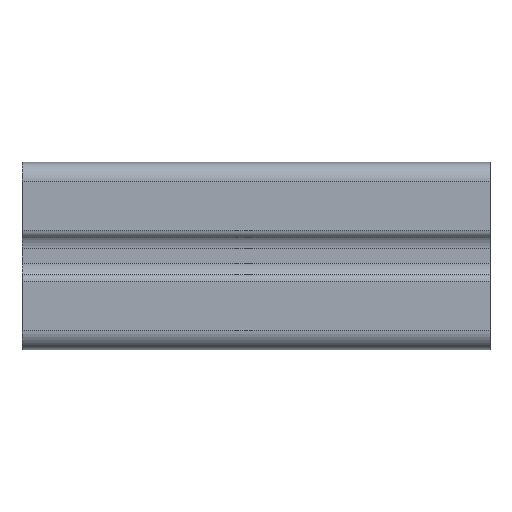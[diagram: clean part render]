
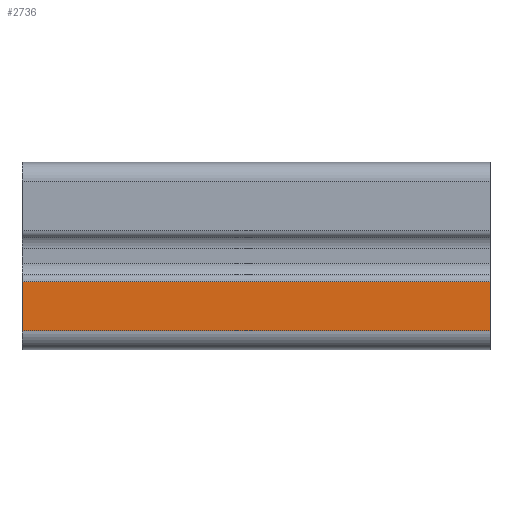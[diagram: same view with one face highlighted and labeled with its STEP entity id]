
A CAD part, left-side view. The second image highlights one B-rep face of the part: STEP entity #2736.
In plain terms, the highlighted planar face has unit normal (-1, 0, 0).
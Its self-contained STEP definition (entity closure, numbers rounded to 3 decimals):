
#52 = CARTESIAN_POINT ( 'NONE',  ( -20., -50., -16. ) ) ;
#205 = CARTESIAN_POINT ( 'NONE',  ( -20., -50., -5.5 ) ) ;
#364 = EDGE_CURVE ( 'NONE', #4177, #5524, #2557, .T. ) ;
#1129 = DIRECTION ( 'NONE',  ( 1., 0., 0. ) ) ;
#1153 = EDGE_LOOP ( 'NONE', ( #6195, #4422, #3032, #3776 ) ) ;
#1164 = PLANE ( 'NONE',  #1638 ) ;
#1329 = EDGE_CURVE ( 'NONE', #5692, #4177, #6366, .T. ) ;
#1638 = AXIS2_PLACEMENT_3D ( 'NONE', #3313, #1129, #3213 ) ;
#1778 = CARTESIAN_POINT ( 'NONE',  ( -20., 50., -5.5 ) ) ;
#2029 = CARTESIAN_POINT ( 'NONE',  ( -20., 50., -5.5 ) ) ;
#2516 = VECTOR ( 'NONE', #2802, 1000. ) ;
#2557 = LINE ( 'NONE', #2029, #4207 ) ;
#2681 = VECTOR ( 'NONE', #5338, 1000. ) ;
#2734 = FACE_OUTER_BOUND ( 'NONE', #1153, .T. ) ;
#2736 = ADVANCED_FACE ( 'NONE', ( #2734 ), #1164, .F. ) ;
#2793 = CARTESIAN_POINT ( 'NONE',  ( -20., 50., -16. ) ) ;
#2802 = DIRECTION ( 'NONE',  ( 0., 0., 1. ) ) ;
#3008 = CARTESIAN_POINT ( 'NONE',  ( -20., -50., -5.5 ) ) ;
#3032 = ORIENTED_EDGE ( 'NONE', *, *, #1329, .F. ) ;
#3213 = DIRECTION ( 'NONE',  ( 0., 0., -1. ) ) ;
#3270 = EDGE_CURVE ( 'NONE', #4847, #5524, #4756, .T. ) ;
#3313 = CARTESIAN_POINT ( 'NONE',  ( -20., 50., -5.5 ) ) ;
#3772 = DIRECTION ( 'NONE',  ( 0., -1., 0. ) ) ;
#3776 = ORIENTED_EDGE ( 'NONE', *, *, #4499, .T. ) ;
#4177 = VERTEX_POINT ( 'NONE', #4792 ) ;
#4207 = VECTOR ( 'NONE', #6157, 1000. ) ;
#4422 = ORIENTED_EDGE ( 'NONE', *, *, #364, .F. ) ;
#4499 = EDGE_CURVE ( 'NONE', #5692, #4847, #5232, .T. ) ;
#4756 = LINE ( 'NONE', #205, #2681 ) ;
#4792 = CARTESIAN_POINT ( 'NONE',  ( -20., 50., -5.5 ) ) ;
#4820 = CARTESIAN_POINT ( 'NONE',  ( -20., 50., -16. ) ) ;
#4847 = VERTEX_POINT ( 'NONE', #52 ) ;
#5232 = LINE ( 'NONE', #4820, #5808 ) ;
#5338 = DIRECTION ( 'NONE',  ( 0., 0., 1. ) ) ;
#5524 = VERTEX_POINT ( 'NONE', #3008 ) ;
#5692 = VERTEX_POINT ( 'NONE', #2793 ) ;
#5808 = VECTOR ( 'NONE', #3772, 1000. ) ;
#6157 = DIRECTION ( 'NONE',  ( 0., -1., 0. ) ) ;
#6195 = ORIENTED_EDGE ( 'NONE', *, *, #3270, .T. ) ;
#6366 = LINE ( 'NONE', #1778, #2516 ) ;
